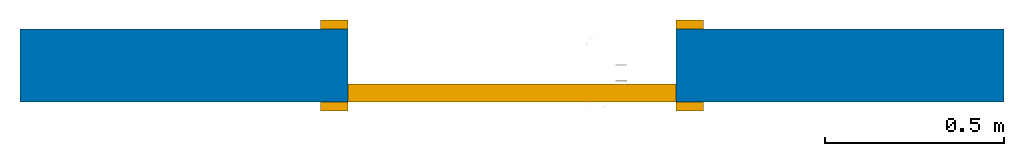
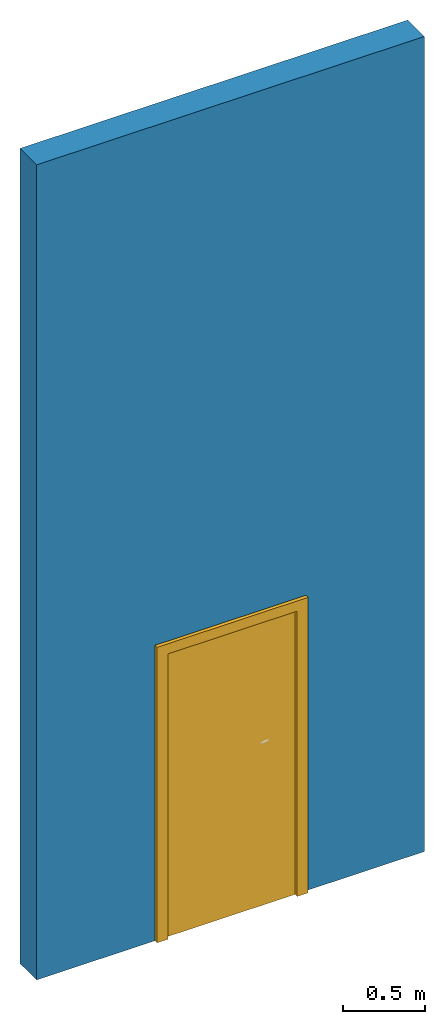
# One storey, incomplete: 1 door, 1 wall, 1 opening.
"""IFC2X3 building model written with IfcOpenShell, lengths in feet."""

from ifc_helpers import new_model, entity, si_unit, converted_unit, derived_unit, direction, frame, frame_2d, origin, place, context, subcontext, project, spatial, polyline, rectangle, outline, extrude, source, transform, mapped, material, material_list, layer, layer_set, layer_usage, type_object, type_shapes, element, fill, save


model = new_model("IFC2X3")

# Units and contexts
model_context = context("Model", 3, precision=0.0001, world=origin(), true_north=direction((6.12303176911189e-17, 1.0)))
body_context = subcontext(model_context, "Body", "Model", "MODEL_VIEW")
ifc_project = project(units=[converted_unit("LENGTHUNIT", "FOOT", entity("IfcRatioMeasure", 0.3048), si_unit("LENGTHUNIT", "METRE"), dimensions=[1, 0, 0, 0, 0, 0, 0]), converted_unit("AREAUNIT", "SQUARE FOOT", entity("IfcRatioMeasure", 0.09290304), si_unit("AREAUNIT", "SQUARE_METRE"), dimensions=[2, 0, 0, 0, 0, 0, 0]), converted_unit("VOLUMEUNIT", "CUBIC FOOT", entity("IfcRatioMeasure", 0.028316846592), si_unit("VOLUMEUNIT", "CUBIC_METRE"), dimensions=[3, 0, 0, 0, 0, 0, 0]), converted_unit("PLANEANGLEUNIT", "DEGREE", entity("IfcRatioMeasure", 0.0174532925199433), si_unit("PLANEANGLEUNIT", "RADIAN"), dimensions=[0, 0, 0, 0, 0, 0, 0]), si_unit("MASSUNIT", "GRAM", prefix="KILO"), derived_unit("MASSDENSITYUNIT", [(si_unit("MASSUNIT", "GRAM", prefix="KILO"), 1), (si_unit("LENGTHUNIT", "METRE"), -3)]), si_unit("TIMEUNIT", "SECOND"), si_unit("FREQUENCYUNIT", "HERTZ"), si_unit("THERMODYNAMICTEMPERATUREUNIT", "DEGREE_CELSIUS"), derived_unit("THERMALTRANSMITTANCEUNIT", [(si_unit("MASSUNIT", "GRAM", prefix="KILO"), 1), (si_unit("THERMODYNAMICTEMPERATUREUNIT", "KELVIN"), -1), (si_unit("TIMEUNIT", "SECOND"), -3)]), derived_unit("VOLUMETRICFLOWRATEUNIT", [(si_unit("LENGTHUNIT", "METRE"), 3), (si_unit("TIMEUNIT", "SECOND"), -1)]), si_unit("ELECTRICCURRENTUNIT", "AMPERE"), si_unit("ELECTRICVOLTAGEUNIT", "VOLT"), si_unit("POWERUNIT", "WATT"), si_unit("FORCEUNIT", "NEWTON"), si_unit("ILLUMINANCEUNIT", "LUX"), si_unit("LUMINOUSFLUXUNIT", "LUMEN"), si_unit("LUMINOUSINTENSITYUNIT", "CANDELA"), derived_unit("USERDEFINED", [(si_unit("MASSUNIT", "GRAM", prefix="KILO"), -1), (si_unit("LENGTHUNIT", "METRE"), -2), (si_unit("TIMEUNIT", "SECOND"), 3), (si_unit("LUMINOUSFLUXUNIT", "LUMEN"), 1)]), derived_unit("LINEARVELOCITYUNIT", [(si_unit("LENGTHUNIT", "METRE"), 1), (si_unit("TIMEUNIT", "SECOND"), -1)]), si_unit("PRESSUREUNIT", "PASCAL"), derived_unit("USERDEFINED", [(si_unit("LENGTHUNIT", "METRE"), -2), (si_unit("MASSUNIT", "GRAM", prefix="KILO"), 1), (si_unit("TIMEUNIT", "SECOND"), -2)])], contexts=[model_context])

# Site, building, storey
site_placement = place(None, origin())
site = spatial("IfcSite", under=ifc_project, at=site_placement, Name="Default", CompositionType="ELEMENT")
building_placement = place(site_placement, origin())
building = spatial("IfcBuilding", under=site, at=building_placement, CompositionType="ELEMENT")
storey_placement = place(building_placement, origin())
storey = spatial("IfcBuildingStorey", under=building, at=storey_placement, Name="Level 1", CompositionType="ELEMENT", Elevation=0.0)

# Wall, opening, door
ifc_material_1 = material(Name="Default Wall")
ifc_layer = layer(ifc_material_1, 0.666666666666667)
ifc_layer_set = layer_set([ifc_layer], Name="Basic Wall:Generic - 8\"")
ifc_layer_usage = layer_usage(ifc_layer_set, "AXIS2", "NEGATIVE", 0.333333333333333)
wall_type = type_object("IfcWallType", Name="Basic Wall:Generic - 8\"", PredefinedType="STANDARD", material=ifc_layer_set)
wall_placement = place(storey_placement, frame((-9.9506229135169, 4.58135706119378, 0.0)))
wall = element("IfcWallStandardCase", 1, at=wall_placement, inside=storey, type_object=wall_type, material=ifc_layer_usage, Name="Basic Wall:Generic - 8\"", ObjectType="Basic Wall:Generic - 8\"", context=body_context, shape_type="SweptSolid", body=[
    extrude(rectangle(XDim=9.0, YDim=0.666666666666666, at=frame_2d((4.5, -1.94289029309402e-16), x_axis=(-1.0, 0.0))), origin(), (0.0, 0.0, 1.0), 20.0),
])
opening_placement = place(wall_placement, frame((6.0, 0.333333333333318, 0.0)))
opening = element("IfcOpeningElement", 2, at=opening_placement, cuts=wall, Name="Single-Flush:36\" x 84\":1", ObjectType="Opening", context=body_context, shape_type="SweptSolid", body=[
    extrude(rectangle(XDim=3.0, YDim=7.0, at=frame_2d((3.5, 1.5), x_axis=(0.0, 1.0))), frame((0.0, 0.0, 0.0), z_axis=(0.0, -1.0, 0.0), x_axis=(0.0, 0.0, 1.0)), (0.0, 0.0, 1.0), 0.666666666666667),
])
ifc_material_2 = material(Name="Door - Frame")
ifc_material_3 = material(Name="Door - Panel")
ifc_material_list_1 = material_list([ifc_material_2, ifc_material_3])
ifc_material_list_2 = material_list([ifc_material_2, ifc_material_3])
door_style = type_object("IfcDoorStyle", Name="36\" x 84\"", ConstructionType="NOTDEFINED", OperationType="SINGLE_SWING_RIGHT", ParameterTakesPrecedence=False, Sizeable=False, material=ifc_material_list_2)
shared_shape = source(origin(), body_context, "Body", "SweptSolid", [
    extrude(outline(polyline([(-1.75, -3.6875), (1.75, -3.6875), (1.75, 3.5625), (1.5, 3.5625), (1.5, -3.43750000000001), (-1.5, -3.43750000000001), (-1.5, 3.5625), (-1.75, 3.5625), (-1.75, -3.6875)])), frame((1.5, 0.666666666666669, 3.5625), z_axis=(0.0, 1.0, 0.0), x_axis=(1.0, 0.0, 0.0)), (0.0, 0.0, 1.0), 0.0833333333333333),
    extrude(outline(polyline([(-3.6875, -1.74999999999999), (3.5625, -1.74999999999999), (3.5625, -1.50000000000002), (-3.4375, -1.50000000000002), (-3.4375, 1.50000000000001), (3.5625, 1.50000000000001), (3.5625, 1.75000000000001), (-3.6875, 1.75000000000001), (-3.6875, -1.74999999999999)])), frame((1.50000000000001, -0.0833333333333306, 3.5625), z_axis=(0.0, 1.0, 0.0), x_axis=(0.0, 0.0, -1.0)), (0.0, 0.0, 1.0), 0.0833333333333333),
    extrude(rectangle(XDim=0.166666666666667, YDim=3.0, at=frame_2d((-1.38777878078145e-17, 0.0), x_axis=(1.0, 0.0))), frame((1.5, 0.583333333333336, 0.0), z_axis=(0.0, 0.0, 1.0), x_axis=(0.0, 1.0, 0.0)), (0.0, 0.0, 1.0), 7.0),
])
type_shapes(door_style, [shared_shape])
door_placement = place(opening_placement, frame((0.0, 0.0, 0.0), z_axis=(0.0, 0.0, 1.0), x_axis=(-1.0, 0.0, 0.0)))
door = element("IfcDoor", 3, at=door_placement, inside=storey, type_object=door_style, material=ifc_material_list_1, Name="Single-Flush:36\" x 84\"", ObjectType="Single-Flush:36\" x 84\"", OverallHeight=7.0, OverallWidth=3.0, context=body_context, shape_type="MappedRepresentation", body=[
    mapped(shared_shape, transform((0.0, 0.0, 0.0), scale=1.0)),
])
fill(opening, door)

save(model, "model.ifc")
